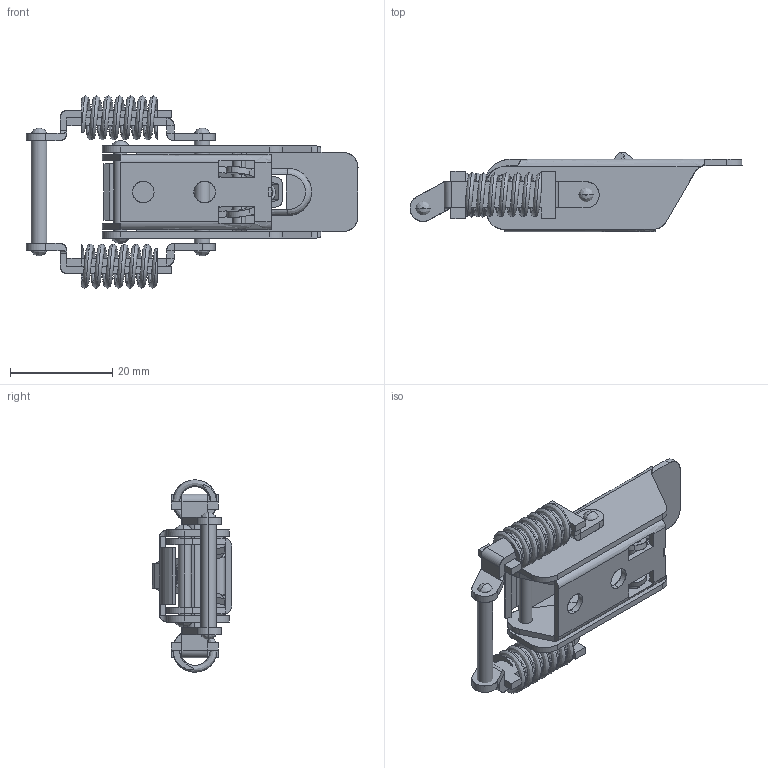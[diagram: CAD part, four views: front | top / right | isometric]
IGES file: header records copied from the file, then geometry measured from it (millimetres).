
Start section: SolidWorks IGES FILE using analytic representation for surfaces
Global section: file name: C:\Documents and Settings\lecoutey\Bureau\GP 2075\GP 2075.IGS; native system: SolidWorks 2004 by SolidWorks Corporation; preprocessor: Version 5.3; author: lecoutey; date: 050329.161136; units: millimetre
Bounding box: 64.95 x 15.55 x 37.6 mm (x, y, z)
Surface area: 10549.2 mm2 (no closed solid volume)
Topology: 0 solids, 0 shells, 331 faces, 4147 edges, 4147 vertices
Faces by surface type: bspline 216, revolution 115
